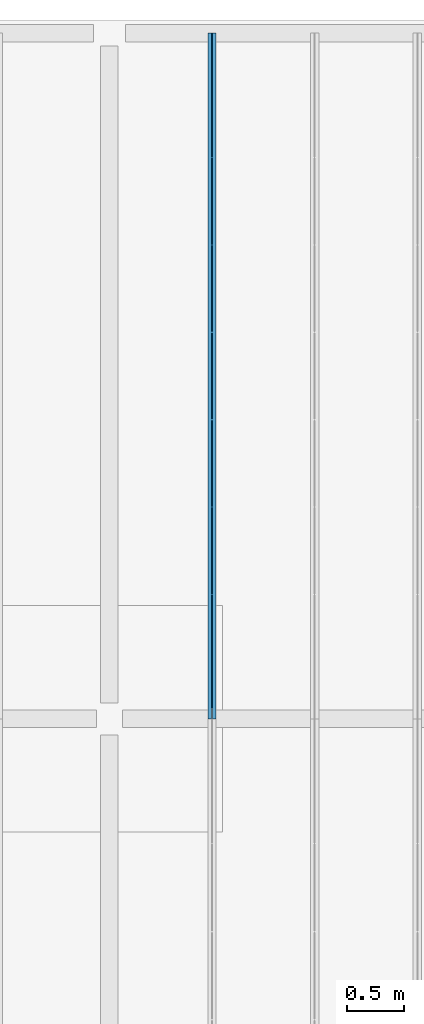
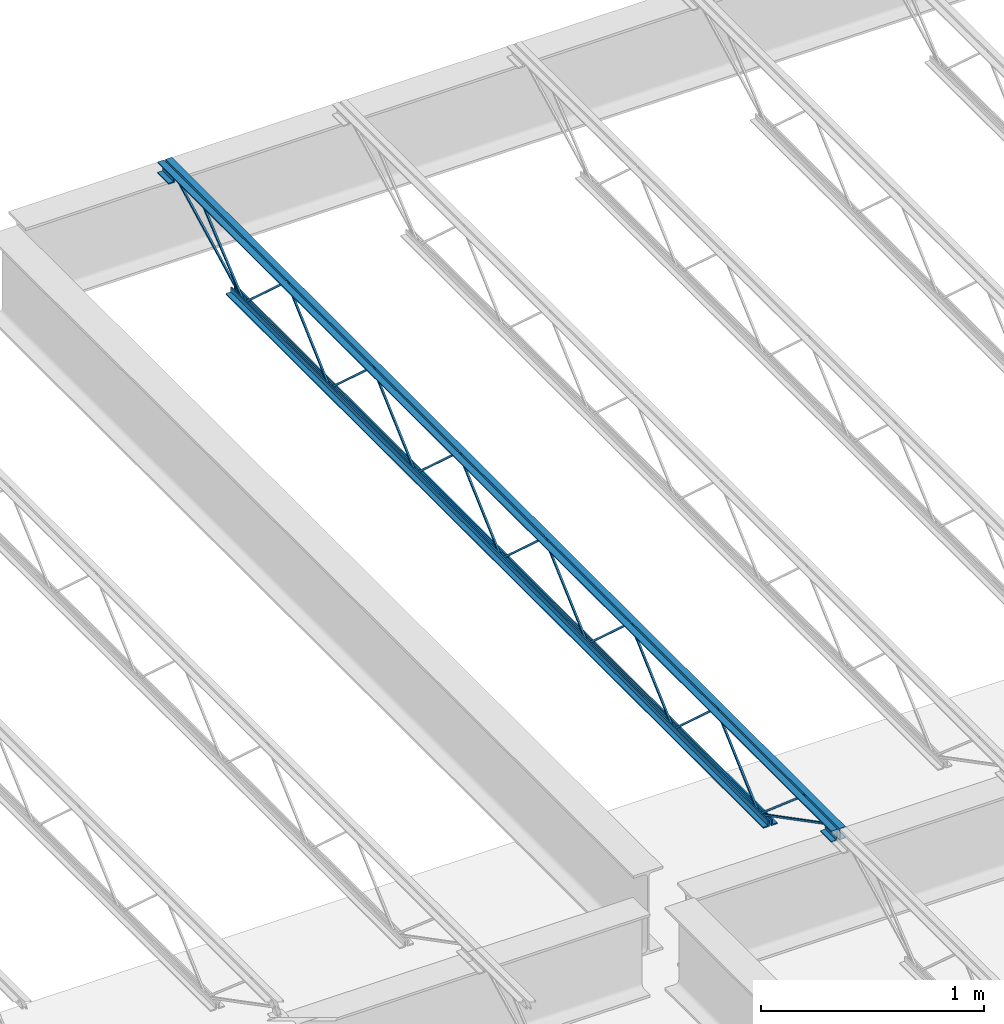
# One storey, part 40 of 75: 1 beam.
"""IFC2X3 building model written with IfcOpenShell, lengths in metres."""

from ifc_helpers import new_model, entity, si_unit, converted_unit, frame, origin, place, context, project, spatial, face_set, surface_model, element, save


model = new_model("IFC2X3")

# Units and contexts
model_context = context("Model", 3, precision=1e-09, world=origin())
plan_context = context("Plan", 3, precision=1e-09, world=origin())
ifc_project = project(units=[si_unit("LENGTHUNIT", "METRE"), si_unit("AREAUNIT", "SQUARE_METRE"), si_unit("VOLUMEUNIT", "CUBIC_METRE"), converted_unit("PLANEANGLEUNIT", "DEGREE", entity("IfcRatioMeasure", 0.01745329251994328), si_unit("PLANEANGLEUNIT", "RADIAN"), dimensions=[0, 0, 0, 0, 0, 0, 0]), si_unit("TIMEUNIT", "SECOND")], contexts=[model_context, plan_context])

# Site, building, storey
site_placement = place(None, origin())
site = spatial("IfcSite", under=ifc_project, at=site_placement, Name="Default", CompositionType="ELEMENT")
building_placement = place(site_placement, origin())
building = spatial("IfcBuilding", under=site, at=building_placement, CompositionType="ELEMENT")
storey_placement = place(building_placement, origin())
storey = spatial("IfcBuildingStorey", under=building, at=storey_placement, Name="First Floor", CompositionType="ELEMENT", Elevation=-3.531500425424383e-13)

# Beam
beam_placement = place(storey_placement, frame((-46.13103571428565, 50.09000000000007, 4.112000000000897), z_axis=(0.0, 0.0, 1.0), x_axis=(-1.0, 0.0, 0.0)))
element("IfcBeam", 1, at=beam_placement, inside=storey, Name="M_K-Series Bar Joist-Rod Web:14K1:14K1", ObjectType="M_K-Series Bar Joist-Rod Web:14K1", context=model_context, shape_type="SurfaceModel", body=[
    surface_model("IfcFaceBasedSurfaceModel", [(-0.03199999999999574, -2.253999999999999, 0.01110000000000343), (-0.04150000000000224, -2.253999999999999, 0.01110000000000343), (-0.04150000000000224, -2.253999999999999, 0.001600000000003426), (-0.03199999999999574, -2.253999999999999, 0.001600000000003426), (-0.04149999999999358, -2.25265592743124, 0.01110000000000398), (-0.03199999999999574, -2.25265592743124, 0.01110000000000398), (-0.04150000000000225, -2.248994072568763, 0.001600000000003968), (-0.04150000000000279, -1.869844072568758, 0.3449000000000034), (-0.0415000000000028, -1.867155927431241, 0.3449000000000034), (-0.04150000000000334, -1.488005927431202, 0.001600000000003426), (-0.04150000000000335, -1.483000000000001, 0.001600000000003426), (-0.04150000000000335, -1.483000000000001, 0.01110000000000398), (-0.04150000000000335, -1.484344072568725, 0.01110000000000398), (-0.04150000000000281, -1.863494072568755, 0.3544000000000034), (-0.04150000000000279, -1.873505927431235, 0.3544000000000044), (-0.03200000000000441, -2.248994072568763, 0.001600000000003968), (-0.03199999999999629, -1.869844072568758, 0.3449000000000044), (-0.0319999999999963, -1.867155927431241, 0.3449000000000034), (-0.03199999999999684, -1.488005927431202, 0.001600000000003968), (-0.03199999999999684, -1.483000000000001, 0.001600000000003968), (-0.03199999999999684, -1.483000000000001, 0.01110000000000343), (-0.03199999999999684, -1.484344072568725, 0.01110000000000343), (-0.0319999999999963, -1.863494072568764, 0.3544000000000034), (-0.03199999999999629, -1.873505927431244, 0.3544000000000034), (-0.03199999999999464, -3.024999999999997, 0.01110000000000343), (-0.04150000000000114, -3.024999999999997, 0.01110000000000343), (-0.04150000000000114, -3.024999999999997, 0.001600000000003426), (-0.03199999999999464, -3.024999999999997, 0.001600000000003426), (-0.04149999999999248, -3.023655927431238, 0.01110000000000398), (-0.03199999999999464, -3.023655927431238, 0.01110000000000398), (-0.04150000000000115, -3.019994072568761, 0.001600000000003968), (-0.04150000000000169, -2.640844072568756, 0.3449000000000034), (-0.04150000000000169, -2.638155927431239, 0.3449000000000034), (-0.04150000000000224, -2.2590059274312, 0.001600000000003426), (-0.04150000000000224, -2.253999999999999, 0.01110000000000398), (-0.04150000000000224, -2.255344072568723, 0.01110000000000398), (-0.0415000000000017, -2.634494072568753, 0.3544000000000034), (-0.04150000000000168, -2.644505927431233, 0.3544000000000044), (-0.03200000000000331, -3.019994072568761, 0.001600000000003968), (-0.03199999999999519, -2.640844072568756, 0.3449000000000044), (-0.03199999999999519, -2.638155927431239, 0.3449000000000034), (-0.03199999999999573, -2.2590059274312, 0.001600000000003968), (-0.03199999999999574, -2.253999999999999, 0.001600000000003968), (-0.03199999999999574, -2.255344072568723, 0.01110000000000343), (-0.0319999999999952, -2.634494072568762, 0.3544000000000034), (-0.03199999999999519, -2.644505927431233, 0.3544000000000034), (-0.03199999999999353, -3.795999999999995, 0.01110000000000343), (-0.04150000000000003, -3.795999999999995, 0.01110000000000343), (-0.04150000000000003, -3.795999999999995, 0.001600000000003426), (-0.03199999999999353, -3.795999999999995, 0.001600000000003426), (-0.04149999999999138, -3.794655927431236, 0.01110000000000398), (-0.03199999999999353, -3.794655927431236, 0.01110000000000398), (-0.04150000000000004, -3.790994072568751, 0.001600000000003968), (-0.04150000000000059, -3.411844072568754, 0.3449000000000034), (-0.04150000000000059, -3.409155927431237, 0.3449000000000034), (-0.04150000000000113, -3.030005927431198, 0.001600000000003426), (-0.04150000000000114, -3.024999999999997, 0.01110000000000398), (-0.04150000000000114, -3.026344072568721, 0.01110000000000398), (-0.0415000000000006, -3.405494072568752, 0.3544000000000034), (-0.04150000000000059, -3.415505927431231, 0.3544000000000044), (-0.03200000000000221, -3.790994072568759, 0.001600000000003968), (-0.03199999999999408, -3.411844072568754, 0.3449000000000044), (-0.03199999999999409, -3.409155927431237, 0.3449000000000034), (-0.03199999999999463, -3.030005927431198, 0.001600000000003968), (-0.03199999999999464, -3.024999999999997, 0.001600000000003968), (-0.03199999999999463, -3.026344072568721, 0.01110000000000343), (-0.03199999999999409, -3.405494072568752, 0.3544000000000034), (-0.03199999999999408, -3.415505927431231, 0.3544000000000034), (-0.03199999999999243, -4.566999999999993, 0.01110000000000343), (-0.04149999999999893, -4.566999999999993, 0.01110000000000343), (-0.04149999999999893, -4.566999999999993, 0.001600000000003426), (-0.03199999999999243, -4.566999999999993, 0.001600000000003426), (-0.04149999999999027, -4.565655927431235, 0.01110000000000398), (-0.03199999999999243, -4.565655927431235, 0.01110000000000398), (-0.04149999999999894, -4.561994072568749, 0.001600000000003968), (-0.04149999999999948, -4.182844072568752, 0.3449000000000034), (-0.04149999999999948, -4.180155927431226, 0.3449000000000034), (-0.04150000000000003, -3.801005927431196, 0.001600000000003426), (-0.04150000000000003, -3.795999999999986, 0.001600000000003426), (-0.04150000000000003, -3.795999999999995, 0.01110000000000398), (-0.04150000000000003, -3.797344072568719, 0.01110000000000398), (-0.04149999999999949, -4.176494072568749, 0.3544000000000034), (-0.04149999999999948, -4.186505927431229, 0.3544000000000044), (-0.0320000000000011, -4.561994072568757, 0.001600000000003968), (-0.03199999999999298, -4.182844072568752, 0.3449000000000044), (-0.03199999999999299, -4.180155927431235, 0.3449000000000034), (-0.03199999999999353, -3.801005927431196, 0.001600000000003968), (-0.03199999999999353, -3.795999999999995, 0.001600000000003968), (-0.03199999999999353, -3.795999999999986, 0.01110000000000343), (-0.03199999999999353, -3.79734407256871, 0.01110000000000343), (-0.03199999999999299, -4.176494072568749, 0.3544000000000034), (-0.03199999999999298, -4.186505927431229, 0.3544000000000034), (-0.03199999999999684, -1.483000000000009, 0.01109999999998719), (-0.04150000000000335, -1.483000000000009, 0.01109999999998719), (-0.04150000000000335, -1.483000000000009, 0.001599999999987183), (-0.03199999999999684, -1.483000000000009, 0.001599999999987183), (-0.04150000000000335, -1.481655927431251, 0.01109999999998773), (-0.03200000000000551, -1.481655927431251, 0.01109999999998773), (-0.04150000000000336, -1.477994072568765, 0.001599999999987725), (-0.0415000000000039, -1.098844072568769, 0.3448999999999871), (-0.0415000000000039, -1.096155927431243, 0.3448999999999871), (-0.04150000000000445, -0.7170059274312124, 0.001599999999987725), (-0.04150000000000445, -0.7120000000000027, 0.001599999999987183), (-0.04150000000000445, -0.7120000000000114, 0.01109999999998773), (-0.04150000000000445, -0.7133440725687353, 0.01109999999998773), (-0.04150000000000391, -1.092494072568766, 0.3543999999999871), (-0.04150000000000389, -1.102505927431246, 0.3543999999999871), (-0.03200000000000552, -1.477994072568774, 0.001599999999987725), (-0.03200000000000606, -1.098844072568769, 0.3448999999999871), (-0.03200000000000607, -1.096155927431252, 0.3448999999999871), (-0.03200000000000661, -0.7170059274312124, 0.001599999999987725), (-0.03200000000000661, -0.7120000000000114, 0.001599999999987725), (-0.03199999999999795, -0.7120000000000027, 0.01109999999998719), (-0.03200000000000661, -0.7133440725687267, 0.01109999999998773), (-0.03200000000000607, -1.092494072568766, 0.3543999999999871), (-0.03200000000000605, -1.102505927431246, 0.3543999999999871), (-0.03199999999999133, -5.337999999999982, 0.01110000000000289), (-0.04149999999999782, -5.337999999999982, 0.01110000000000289), (-0.04149999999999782, -5.337999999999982, 0.001600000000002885), (-0.03199999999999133, -5.337999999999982, 0.001600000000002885), (-0.04149999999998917, -5.336655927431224, 0.01110000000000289), (-0.03199999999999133, -5.336655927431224, 0.01110000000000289), (-0.04149999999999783, -5.332994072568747, 0.001600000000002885), (-0.04149999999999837, -4.953844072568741, 0.3449000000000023), (-0.04149999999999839, -4.951155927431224, 0.3449000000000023), (-0.04149999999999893, -4.572005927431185, 0.001600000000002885), (-0.04149999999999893, -4.566999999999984, 0.001600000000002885), (-0.04149999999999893, -4.566999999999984, 0.01110000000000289), (-0.04149999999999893, -4.568344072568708, 0.01110000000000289), (-0.04149999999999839, -4.947494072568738, 0.3544000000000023), (-0.04149999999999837, -4.957505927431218, 0.3544000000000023), (-0.03199999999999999, -5.332994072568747, 0.001600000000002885), (-0.03199999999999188, -4.953844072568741, 0.3449000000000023), (-0.03199999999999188, -4.951155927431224, 0.3449000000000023), (-0.03199999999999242, -4.572005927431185, 0.001600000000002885), (-0.03199999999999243, -4.566999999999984, 0.001600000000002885), (-0.03199999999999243, -4.566999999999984, 0.01110000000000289), (-0.03199999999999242, -4.568344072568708, 0.01110000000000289), (-0.03199999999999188, -4.947494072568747, 0.3544000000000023), (-0.03199999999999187, -4.957505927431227, 0.3544000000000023), (-0.04150000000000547, 0.0, 0.3559999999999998), (-0.07350000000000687, 0.0, 0.3559999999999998), (-0.07350000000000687, 0.0, 0.349499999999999), (-0.048000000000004, 0.0, 0.349499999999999), (-0.048000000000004, 0.0, 0.3239999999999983), (-0.04150000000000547, 0.0, 0.3239999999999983), (-0.03200000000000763, 0.0, 0.3559999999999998), (-0.03200000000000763, 0.0, 0.3239999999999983), (-0.02550000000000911, 0.0, 0.3239999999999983), (-0.02550000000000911, 0.0, 0.349499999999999), (0.0, 0.0, 0.349499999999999), (0.0, 0.0, 0.3559999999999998), (-0.04149999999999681, -6.049999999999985, 0.3559999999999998), (-0.07349999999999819, -6.049999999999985, 0.3559999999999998), (-0.07349999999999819, -6.049999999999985, 0.349499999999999), (-0.04799999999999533, -6.049999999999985, 0.349499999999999), (-0.04799999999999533, -6.049999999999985, 0.3239999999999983), (-0.04149999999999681, -6.049999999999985, 0.3239999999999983), (-0.03199999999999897, -6.049999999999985, 0.3559999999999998), (-0.03199999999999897, -6.049999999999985, 0.3239999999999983), (-0.02550000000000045, -6.049999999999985, 0.3239999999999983), (-0.02550000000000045, -6.049999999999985, 0.349499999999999), (0.0, -6.049999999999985, 0.349499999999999), (0.0, -6.049999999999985, 0.3559999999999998), (-0.03199999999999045, -5.949999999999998, 0.2924999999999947), (0.0, -5.949999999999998, 0.2924999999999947), (0.0, -5.949999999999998, 0.2989999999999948), (-0.02549999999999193, -5.949999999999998, 0.2989999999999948), (-0.02549999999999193, -5.949999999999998, 0.3239999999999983), (-0.03199999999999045, -5.949999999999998, 0.3239999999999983), (-0.07349999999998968, -5.949999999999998, 0.2924999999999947), (-0.04149999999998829, -5.949999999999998, 0.2924999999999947), (-0.04149999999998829, -5.949999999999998, 0.3239999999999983), (-0.04799999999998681, -5.949999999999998, 0.3239999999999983), (-0.04799999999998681, -5.949999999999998, 0.2989999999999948), (-0.07349999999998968, -5.949999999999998, 0.2989999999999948), (-0.03199999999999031, -6.049999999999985, 0.2924999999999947), (0.0, -6.049999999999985, 0.2924999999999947), (0.0, -6.049999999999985, 0.2989999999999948), (-0.02549999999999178, -6.049999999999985, 0.2989999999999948), (-0.02549999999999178, -6.049999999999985, 0.3239999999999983), (-0.03199999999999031, -6.049999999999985, 0.3239999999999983), (-0.07349999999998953, -6.049999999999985, 0.2924999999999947), (-0.04149999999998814, -6.049999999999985, 0.2924999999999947), (-0.04149999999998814, -6.049999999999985, 0.3239999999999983), (-0.04799999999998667, -6.049999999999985, 0.3239999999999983), (-0.04799999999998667, -6.049999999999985, 0.2989999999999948), (-0.07349999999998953, -6.049999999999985, 0.2989999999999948), (-0.04149999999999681, 0.0, 0.2924999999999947), (-0.04149999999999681, 0.0, 0.3239999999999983), (-0.04799999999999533, 0.0, 0.3239999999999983), (-0.04799999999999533, 0.0, 0.2989999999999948), (-0.07349999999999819, 0.0, 0.2989999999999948), (-0.07349999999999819, 0.0, 0.2924999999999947), (-0.03199999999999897, 0.0, 0.2924999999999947), (0.0, 0.0, 0.2924999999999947), (0.0, 0.0, 0.2989999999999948), (-0.02550000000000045, 0.0, 0.2989999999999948), (-0.02550000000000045, 0.0, 0.3239999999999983), (-0.03199999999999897, 0.0, 0.3239999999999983), (-0.04149999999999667, -0.09999999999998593, 0.2924999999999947), (-0.04149999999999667, -0.09999999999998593, 0.3239999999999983), (-0.04799999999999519, -0.09999999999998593, 0.3239999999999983), (-0.04799999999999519, -0.09999999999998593, 0.2989999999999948), (-0.07349999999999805, -0.09999999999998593, 0.2989999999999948), (-0.07349999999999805, -0.09999999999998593, 0.2924999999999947), (-0.03199999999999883, -0.09999999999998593, 0.2924999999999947), (0.0, -0.09999999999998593, 0.2924999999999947), (0.0, -0.09999999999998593, 0.2989999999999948), (-0.0255000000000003, -0.09999999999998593, 0.2989999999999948), (-0.0255000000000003, -0.09999999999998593, 0.3239999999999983), (-0.03199999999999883, -0.09999999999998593, 0.3239999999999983), (-0.0415000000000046, -0.6119999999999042, 0.0), (-0.0415000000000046, -0.6119999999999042, 0.03199999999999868), (-0.04800000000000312, -0.6119999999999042, 0.03199999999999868), (-0.04800000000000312, -0.6119999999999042, 0.006499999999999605), (-0.07350000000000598, -0.6119999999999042, 0.006499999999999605), (-0.07350000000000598, -0.6119999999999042, 0.0), (-0.03200000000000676, -0.6119999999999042, 0.0), (0.0, -0.6119999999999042, 0.0), (0.0, -0.6119999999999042, 0.006499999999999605), (-0.02550000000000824, -0.6119999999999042, 0.006499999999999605), (-0.02550000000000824, -0.6119999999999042, 0.03199999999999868), (-0.03200000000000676, -0.6119999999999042, 0.03199999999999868), (-0.04149999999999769, -5.437999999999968, 0.0), (-0.04149999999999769, -5.437999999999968, 0.03199999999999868), (-0.04799999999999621, -5.437999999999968, 0.03199999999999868), (-0.04799999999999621, -5.437999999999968, 0.006499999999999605), (-0.07349999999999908, -5.437999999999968, 0.006499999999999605), (-0.07349999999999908, -5.437999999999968, 0.0), (-0.03199999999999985, -5.437999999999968, 0.0), (0.0, -5.437999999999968, 0.0), (0.0, -5.437999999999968, 0.006499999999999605), (-0.02550000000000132, -5.437999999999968, 0.006499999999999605), (-0.02550000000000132, -5.437999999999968, 0.03199999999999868), (-0.03199999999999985, -5.437999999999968, 0.03199999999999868), (-0.03199999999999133, -5.335811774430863, 0.01056594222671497), (-0.04149999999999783, -5.335811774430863, 0.01056594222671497), (-0.04149999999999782, -5.340188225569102, 0.002134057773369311), (-0.03199999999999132, -5.340188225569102, 0.002134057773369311), (-0.03199999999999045, -5.948840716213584, 0.3287499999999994), (-0.03199999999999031, -6.049999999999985, 0.3287499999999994), (-0.03199999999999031, -6.049999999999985, 0.3192499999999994), (-0.03199999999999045, -5.951159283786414, 0.3192499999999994), (-0.04149999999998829, -5.951159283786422, 0.3192499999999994), (-0.04149999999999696, -5.948840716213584, 0.3287499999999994), (-0.04149999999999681, -6.049999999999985, 0.3287499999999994), (-0.04149999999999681, -6.049999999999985, 0.3192499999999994), (-0.03199999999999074, -5.74345714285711, 0.341700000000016), (-0.04149999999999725, -5.74345714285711, 0.341700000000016), (-0.04149999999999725, -5.74345714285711, 0.332200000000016), (-0.03199999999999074, -5.74345714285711, 0.332200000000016), (-0.0414999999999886, -5.729024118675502, 0.341700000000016), (-0.03199999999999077, -5.729024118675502, 0.341700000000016), (-0.04149999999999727, -5.732490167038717, 0.332200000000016), (-0.04149999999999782, -5.341058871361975, 0.002716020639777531), (-0.04149999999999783, -5.334941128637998, 0.009983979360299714), (-0.03199999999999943, -5.732490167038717, 0.332200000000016), (-0.03199999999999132, -5.341058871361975, 0.002716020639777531), (-0.03199999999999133, -5.33494112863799, 0.009983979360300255), (-0.03199999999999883, -0.09781177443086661, 0.3197840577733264), (-0.03199999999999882, -0.1021882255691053, 0.3282159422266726), (-0.04150000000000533, -0.1021882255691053, 0.3282159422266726), (-0.04150000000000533, -0.09781177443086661, 0.3197840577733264), (-0.03199999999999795, -0.7098117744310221, 0.002134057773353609), (-0.03199999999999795, -0.7141882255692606, 0.01056594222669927), (-0.04150000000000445, -0.7141882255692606, 0.01056594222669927), (-0.04150000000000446, -0.7098117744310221, 0.002134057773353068), (-0.03199999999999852, -0.3088922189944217, 0.3460454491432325), (-0.03199999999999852, -0.3150792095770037, 0.3532545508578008), (-0.04150000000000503, -0.3150792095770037, 0.3532545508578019), (-0.04150000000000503, -0.3088922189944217, 0.3460454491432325), (-0.03199999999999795, -0.7089065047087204, 0.002745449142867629), (-0.03199999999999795, -0.7150934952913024, 0.009954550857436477), (-0.04150000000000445, -0.7150934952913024, 0.009954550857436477), (-0.04150000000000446, -0.7089065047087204, 0.002745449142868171)], [face_set([[[0, 1, 2, 3]], [[1, 4, 5, 0]], [[2, 6, 7, 8, 9, 10, 11, 12, 13, 14, 4, 1]], [[3, 2, 6, 15]], [[0, 3, 15, 16, 17, 18, 19, 20, 21, 22, 23, 5]], [[4, 5, 23, 14]], [[15, 16, 7, 6]], [[14, 13, 22, 23]], [[16, 7, 8, 17]], [[13, 12, 21, 22]], [[17, 8, 9, 18]], [[20, 11, 10, 19]], [[12, 11, 20, 21]], [[18, 9, 10, 19]]]), face_set([[[24, 25, 26, 27]], [[25, 28, 29, 24]], [[26, 30, 31, 32, 33, 2, 34, 35, 36, 37, 28, 25]], [[27, 26, 30, 38]], [[24, 27, 38, 39, 40, 41, 42, 0, 43, 44, 45, 29]], [[28, 29, 45, 37]], [[38, 39, 31, 30]], [[37, 36, 44, 45]], [[39, 31, 32, 40]], [[36, 35, 43, 44]], [[40, 32, 33, 41]], [[0, 34, 2, 42]], [[35, 34, 0, 43]], [[41, 33, 2, 42]]]), face_set([[[46, 47, 48, 49]], [[47, 50, 51, 46]], [[48, 52, 53, 54, 55, 26, 56, 57, 58, 59, 50, 47]], [[49, 48, 52, 60]], [[46, 49, 60, 61, 62, 63, 64, 24, 65, 66, 67, 51]], [[50, 51, 67, 59]], [[60, 61, 53, 52]], [[59, 58, 66, 67]], [[61, 53, 54, 62]], [[58, 57, 65, 66]], [[62, 54, 55, 63]], [[24, 56, 26, 64]], [[57, 56, 24, 65]], [[63, 55, 26, 64]]]), face_set([[[68, 69, 70, 71]], [[69, 72, 73, 68]], [[70, 74, 75, 76, 77, 78, 79, 80, 81, 82, 72, 69]], [[71, 70, 74, 83]], [[68, 71, 83, 84, 85, 86, 87, 88, 89, 90, 91, 73]], [[72, 73, 91, 82]], [[83, 84, 75, 74]], [[82, 81, 90, 91]], [[84, 75, 76, 85]], [[81, 80, 89, 90]], [[85, 76, 77, 86]], [[88, 79, 78, 87]], [[80, 79, 88, 89]], [[86, 77, 78, 87]]]), face_set([[[92, 93, 94, 95]], [[93, 96, 97, 92]], [[94, 98, 99, 100, 101, 102, 103, 104, 105, 106, 96, 93]], [[95, 94, 98, 107]], [[92, 95, 107, 108, 109, 110, 111, 112, 113, 114, 115, 97]], [[96, 97, 115, 106]], [[107, 108, 99, 98]], [[106, 105, 114, 115]], [[108, 99, 100, 109]], [[105, 104, 113, 114]], [[109, 100, 101, 110]], [[112, 103, 102, 111]], [[104, 103, 112, 113]], [[110, 101, 102, 111]]]), face_set([[[116, 117, 118, 119]], [[117, 120, 121, 116]], [[118, 122, 123, 124, 125, 126, 127, 128, 129, 130, 120, 117]], [[119, 118, 122, 131]], [[116, 119, 131, 132, 133, 134, 135, 136, 137, 138, 139, 121]], [[120, 121, 139, 130]], [[131, 132, 123, 122]], [[130, 129, 138, 139]], [[132, 123, 124, 133]], [[129, 128, 137, 138]], [[133, 124, 125, 134]], [[136, 127, 126, 135]], [[128, 127, 136, 137]], [[134, 125, 126, 135]]]), face_set([[[140, 141, 142, 143, 144, 145]], [[146, 147, 148, 149, 150, 151]], [[152, 153, 154, 155, 156, 157]], [[158, 159, 160, 161, 162, 163]], [[145, 140, 152, 157]], [[144, 145, 157, 156]], [[143, 155, 156, 144]], [[142, 143, 155, 154]], [[141, 153, 154, 142]], [[140, 152, 153, 141]], [[151, 163, 158, 146]], [[150, 151, 163, 162]], [[149, 150, 162, 161]], [[148, 149, 161, 160]], [[147, 148, 160, 159]], [[146, 158, 159, 147]]]), face_set([[[164, 165, 166, 167, 168, 169]], [[170, 171, 172, 173, 174, 175]], [[176, 177, 178, 179, 180, 181]], [[182, 183, 184, 185, 186, 187]], [[169, 181, 176, 164]], [[168, 180, 181, 169]], [[167, 168, 180, 179]], [[166, 178, 179, 167]], [[165, 166, 178, 177]], [[164, 165, 177, 176]], [[175, 187, 182, 170]], [[174, 186, 187, 175]], [[173, 185, 186, 174]], [[172, 184, 185, 173]], [[171, 172, 184, 183]], [[170, 171, 183, 182]]]), face_set([[[188, 189, 190, 191, 192, 193]], [[194, 195, 196, 197, 198, 199]], [[200, 201, 202, 203, 204, 205]], [[206, 207, 208, 209, 210, 211]], [[193, 188, 200, 205]], [[192, 204, 205, 193]], [[191, 203, 204, 192]], [[190, 202, 203, 191]], [[189, 201, 202, 190]], [[188, 189, 201, 200]], [[199, 211, 206, 194]], [[198, 210, 211, 199]], [[197, 198, 210, 209]], [[196, 208, 209, 197]], [[195, 196, 208, 207]], [[194, 195, 207, 206]]]), face_set([[[212, 213, 214, 215, 216, 217]], [[218, 219, 220, 221, 222, 223]], [[224, 225, 226, 227, 228, 229]], [[230, 231, 232, 233, 234, 235]], [[217, 212, 224, 229]], [[216, 228, 229, 217]], [[215, 227, 228, 216]], [[214, 226, 227, 215]], [[213, 225, 226, 214]], [[212, 213, 225, 224]], [[223, 235, 230, 218]], [[222, 234, 235, 223]], [[221, 222, 234, 233]], [[220, 232, 233, 221]], [[219, 220, 232, 231]], [[218, 219, 231, 230]]]), face_set([[[236, 237, 238, 239]], [[239, 236, 240, 241, 242, 243]], [[238, 239, 243, 244]], [[237, 245, 246, 247, 244, 238]], [[236, 240, 245, 237]], [[241, 246, 247, 242]], [[244, 243, 242, 247]], [[240, 241, 246, 245]]]), face_set([[[248, 249, 250, 251]], [[249, 252, 253, 248]], [[250, 254, 255, 256, 252, 249]], [[251, 250, 254, 257]], [[248, 251, 257, 258, 259, 253]], [[259, 256, 255, 258]], [[252, 256, 259, 253]], [[257, 254, 255, 258]]]), face_set([[[260, 261, 262, 263]], [[264, 265, 266, 267]], [[263, 267, 264, 260]], [[262, 266, 267, 263]], [[261, 262, 266, 265]], [[260, 261, 265, 264]]]), face_set([[[268, 269, 270, 271]], [[272, 273, 274, 275]], [[271, 275, 272, 268]], [[270, 274, 275, 271]], [[269, 270, 274, 273]], [[268, 269, 273, 272]]])]),
])

save(model, "model.ifc")
